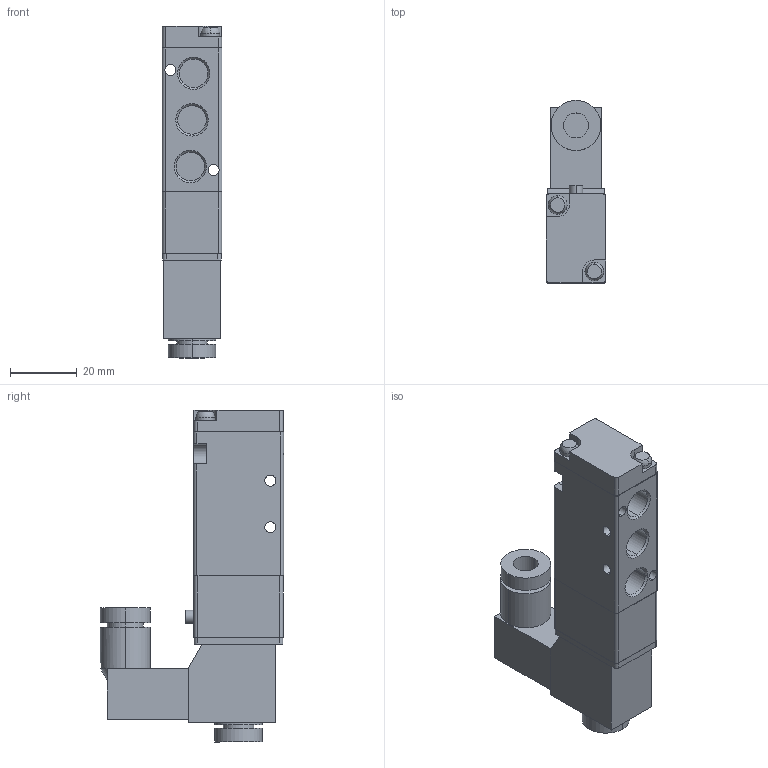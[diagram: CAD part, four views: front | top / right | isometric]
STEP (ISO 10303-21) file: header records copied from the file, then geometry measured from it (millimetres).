
FILE_DESCRIPTION (( 'STEP AP203' ), '1' );
FILE_NAME ('VB5-S01.STEP', '2020-04-15T16:59:58', ( '' ), ( '' ), 'SwSTEP 2.0', 'SolidWorks 2019', '' );
FILE_SCHEMA (( 'CONFIG_CONTROL_DESIGN' ));
Length unit declared in the file: millimetre
Products named in the file (1): VB5-S01
Bounding box: 18 x 55 x 99.7 mm (x, y, z)
Volume: 49337 mm3; surface area: 14762.5 mm2
Topology: 1 solids, 1 shells, 134 faces, 337 edges, 218 vertices
Faces by surface type: cylinder 60, plane 59, cone 11, sphere 4
Entity records: 4200 total; most frequent: CARTESIAN_POINT 788, DIRECTION 742, ORIENTED_EDGE 662, EDGE_CURVE 331, AXIS2_PLACEMENT_3D 279, VERTEX_POINT 216, LINE 184, VECTOR 184
